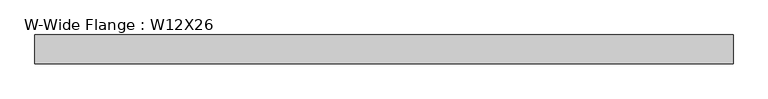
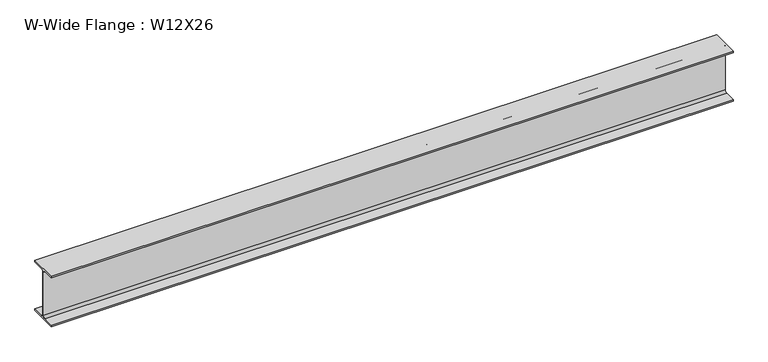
"""IFC4 building model written with IfcOpenShell, lengths in millimetres: beam geometry, W-Wide Flange : W12X26."""

from ifc_helpers import new_model, si_unit, point, frame, frame_2d, origin, place, context, project, spatial, polyline, circle_curve, trimmed, segment, composite_curve, outline, extrude, source, transform, mapped, element, save


def w_wide_flange_w12x26_57604207(model_context):
    return source(origin(), model_context, "Body", "SweptSolid", [
        extrude(outline(composite_curve([segment(polyline([(82.55, -146.05), (82.55, -155.575), (-82.55, -155.575), (-82.55, -146.05), (-15.875, -146.05)]), True, "CONTINUOUS"), segment(trimmed(circle_curve(frame_2d((-15.875, -133.35)), 12.7), [point((-15.875, -146.05))], [point((-3.175, -133.35))], True, "CARTESIAN"), True, "CONTINUOUS"), segment(polyline([(-3.175, -133.35), (-3.175, 133.35)]), True, "CONTINUOUS"), segment(trimmed(circle_curve(frame_2d((-15.875, 133.35)), 12.7), [point((-3.175, 133.35))], [point((-15.875, 146.05))], True, "CARTESIAN"), True, "CONTINUOUS"), segment(polyline([(-15.875, 146.05), (-82.55, 146.05), (-82.55, 155.575), (82.55, 155.575), (82.55, 146.05), (15.875, 146.05)]), True, "CONTINUOUS"), segment(trimmed(circle_curve(frame_2d((15.875, 133.35)), 12.7), [point((15.875, 146.05))], [point((3.175, 133.35))], True, "CARTESIAN"), True, "CONTINUOUS"), segment(polyline([(3.175, 133.35), (3.175, -133.35)]), True, "CONTINUOUS"), segment(trimmed(circle_curve(frame_2d((15.875, -133.35)), 12.7), [point((3.175, -133.35))], [point((15.875, -146.05))], True, "CARTESIAN"), True, "CONTINUOUS"), segment(polyline([(15.875, -146.05), (82.55, -146.05)]), True, "CONTINUOUS")], self_intersect=False)), frame((-1997.075, 0.0, 0.0), z_axis=(1.0, 0.0, 0.0), x_axis=(0.0, 1.0, 0.0)), (0.0, 0.0, 1.0), 3994.15),
    ])


if __name__ == "__main__":
    model = new_model("IFC4")
    model_context = context("Model", 3, world=origin())
    ifc_project = project(units=[si_unit("LENGTHUNIT", "METRE", prefix="MILLI")], contexts=[model_context])
    site = spatial("IfcSite", under=ifc_project)
    building = spatial("IfcBuilding", under=site)
    placement = place(None, origin())
    w_wide_flange_w12x26_shape = w_wide_flange_w12x26_57604207(model_context)
    element("IfcBeam", 1, ObjectType="W-Wide Flange : W12X26", at=placement, inside=building, context=model_context, shape_type="MappedRepresentation", body=[
        mapped(w_wide_flange_w12x26_shape, transform((0.0, 0.0, 0.0), x_axis=(1.0, 0.0, 0.0), y_axis=(0.0, 1.0, 0.0), z_axis=(0.0, 0.0, 1.0))),
    ])
    save(model, "model.ifc")
